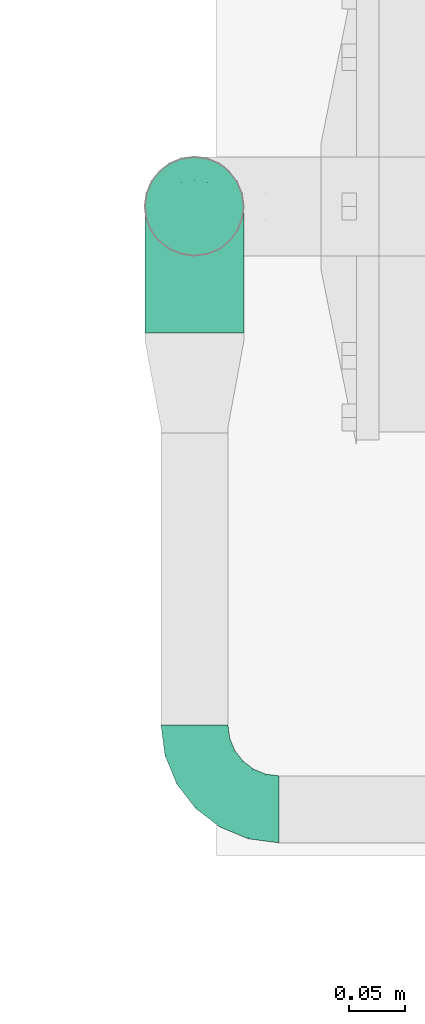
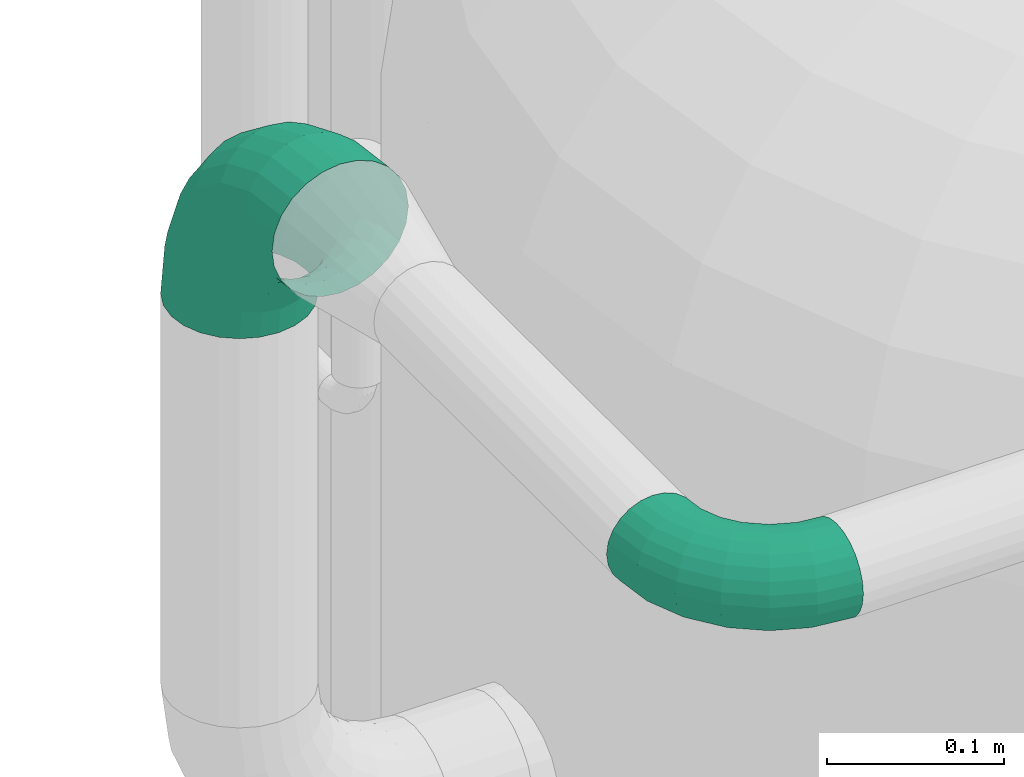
# One storey, part 91 of 374: 2 flow segments.
"""IFC2X3 building model written with IfcOpenShell, lengths in metres."""

from ifc_helpers import new_model, si_unit, direction, origin, place, context, subcontext, project, spatial, open_shell, surface_model, source, transform, mapped, element, save


model = new_model("IFC2X3")

# Units and contexts
model_context = context("Model", 3, precision=1e-05, world=origin(), true_north=direction((-0.4480736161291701, 0.8939966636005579)))
body_context = subcontext(model_context, "Body", "Model", "MODEL_VIEW")
ifc_project = project(units=[si_unit("LENGTHUNIT", "METRE"), si_unit("AREAUNIT", "SQUARE_METRE"), si_unit("VOLUMEUNIT", "CUBIC_METRE"), si_unit("PLANEANGLEUNIT", "RADIAN"), si_unit("THERMODYNAMICTEMPERATUREUNIT", "KELVIN"), si_unit("MASSUNIT", "GRAM", prefix="KILO"), si_unit("TIMEUNIT", "SECOND")], contexts=[model_context])

# Site, building, storey
site_placement = place(None, origin())
site = spatial("IfcSite", under=ifc_project, at=site_placement, Name="Site 1", CompositionType="ELEMENT")
building_placement = place(site_placement, origin())
building = spatial("IfcBuilding", under=site, at=building_placement, Name="Undefined", CompositionType="ELEMENT")
storey_placement = place(building_placement, origin())
storey = spatial("IfcBuildingStorey", under=building, at=storey_placement, Name="Rez de chauss\x8ee", CompositionType="ELEMENT", Elevation=0.0)

# Flow segments
shared_shape_1 = source(origin(), body_context, "Body", "SurfaceModel", [
    surface_model("IfcFaceBasedSurfaceModel", [(0.027710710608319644, 4.4408921e-16, 0.0), (0.02757661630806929, 0.00786958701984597, 7.105427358e-15), (0.00013409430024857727, 0.00786958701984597, 0.0), (0.0, 0.0, 0.0), (-0.02637334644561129, 0.008788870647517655, -0.0070429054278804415), (-0.026766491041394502, 0.0009282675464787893, -0.007111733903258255), (-0.050139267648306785, 0.010564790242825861, -0.02064875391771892), (-0.050764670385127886, 0.0027215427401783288, -0.02085054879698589), (-0.06954406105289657, 0.013076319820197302, -0.03989032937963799), (-0.07035910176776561, 0.00525761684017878, -0.04028016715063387), (-0.0832653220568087, 0.01615230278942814, -0.06345635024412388), (-0.08421445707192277, 0.00836366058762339, -0.06407649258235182), (-0.09036796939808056, 0.019583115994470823, -0.08974083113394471), (-0.0913865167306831, 0.011828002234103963, -0.09061784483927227), (0.027183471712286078, 0.015466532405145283, -0.0020199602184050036), (0.0005272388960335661, 0.015466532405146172, -0.0020199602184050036), (-0.025220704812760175, 0.016359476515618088, -0.008861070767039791), (-0.048305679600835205, 0.018084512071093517, -0.02207708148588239), (-0.06715448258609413, 0.020524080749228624, -0.04076734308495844), (-0.0804825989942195, 0.023511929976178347, -0.06365814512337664), (-0.08738173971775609, 0.026844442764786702, -0.08918951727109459), (0.026558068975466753, 0.022273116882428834, -0.005922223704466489), (0.001152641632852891, 0.02227311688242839, -0.005922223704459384), (-0.02338711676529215, 0.023124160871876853, -0.012442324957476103), (-0.04538886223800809, 0.02476825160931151, -0.02503819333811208), (-0.06335321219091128, 0.027093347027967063, -0.042851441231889), (-0.07605592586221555, 0.029940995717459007, -0.06466812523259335), (-0.08263133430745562, 0.033117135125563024, -0.08900147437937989), (0.025743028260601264, 0.0278254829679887, -0.011440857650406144), (0.0019676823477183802, 0.027825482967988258, -0.011440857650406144), (-0.020997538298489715, 0.028621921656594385, -0.017542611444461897), (-0.04158759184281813, 0.03016052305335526, -0.029330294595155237), (-0.058399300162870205, 0.0323364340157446, -0.04600059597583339), (-0.07028697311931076, 0.03500136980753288, -0.06641746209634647), (-0.07644048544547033, 0.0379737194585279, -0.08918951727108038), (0.02479389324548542, 0.03174524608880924, -0.01819977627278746), (0.0029168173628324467, 0.03174524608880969, -0.01819977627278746), (-0.018214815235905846, 0.0324780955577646, -0.023814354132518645), (-0.03716091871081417, 0.033893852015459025, -0.034660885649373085), (-0.052630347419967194, 0.03589603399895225, -0.05000019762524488), (-0.06356888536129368, 0.03834819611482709, -0.06878694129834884), (-0.06923108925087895, 0.041083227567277, -0.0897408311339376), (0.023775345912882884, 0.03376528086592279, -0.02573837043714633), (0.003935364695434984, 0.03376528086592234, -0.02573837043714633), (-0.01522858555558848, 0.03442989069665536, -0.03083014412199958), (-0.0324105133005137, 0.03571381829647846, -0.040666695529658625), (-0.046439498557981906, 0.0375295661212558, -0.05457767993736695), (-0.05635948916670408, 0.039753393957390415, -0.07161508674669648), (-0.061494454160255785, 0.04223375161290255, -0.09061784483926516), (0.022756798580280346, 0.03374792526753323, -0.033542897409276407), (0.0049539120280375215, 0.033747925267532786, -0.033542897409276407), (-0.01224235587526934, 0.03434429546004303, -0.03811186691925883), (-0.027660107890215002, 0.035496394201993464, -0.04693843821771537), (-0.040248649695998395, 0.0371257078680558, -0.05942109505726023), (-0.04915009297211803, 0.039121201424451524, -0.07470916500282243), (-0.05375781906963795, 0.041346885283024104, -0.09176079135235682), (0.02180766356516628, 0.03169436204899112, -0.04108149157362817), (0.005903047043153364, 0.031694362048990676, -0.04108149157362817), (-0.00945963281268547, 0.03222714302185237, -0.045163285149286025), (-0.02323343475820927, 0.03325639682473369, -0.05304870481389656), (-0.034479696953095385, 0.034711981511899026, -0.06420037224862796), (-0.04243200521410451, 0.036494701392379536, -0.07785831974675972), (-0.04654842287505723, 0.03848306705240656, -0.09309178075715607), (0.020992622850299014, 0.02774453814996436, -0.0478404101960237), (0.006718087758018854, 0.027744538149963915, -0.0478404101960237), (-0.007070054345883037, 0.02822271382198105, -0.05150385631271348), (-0.019432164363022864, 0.0291464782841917, -0.0585810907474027), (-0.029525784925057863, 0.030452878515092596, -0.06858981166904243), (-0.03666305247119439, 0.032052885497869, -0.08084794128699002), (-0.04035757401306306, 0.03383746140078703, -0.09452010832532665), (0.020367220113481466, 0.022167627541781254, -0.05335904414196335), (0.0073434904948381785, 0.022167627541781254, -0.05335904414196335), (-0.00523646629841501, 0.02260390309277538, -0.05670148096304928), (-0.016515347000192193, 0.023446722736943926, -0.06315857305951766), (-0.025724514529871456, 0.02463864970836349, -0.07229028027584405), (-0.03223637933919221, 0.02609845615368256, -0.0834742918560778), (-0.03560716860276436, 0.027726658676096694, -0.09594843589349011), (0.019974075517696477, 0.01534368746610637, -0.05726130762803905), (0.007736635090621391, 0.01534368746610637, -0.05726130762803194), (-0.004083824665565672, 0.01575362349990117, -0.06040194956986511), (-0.014681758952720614, 0.01654555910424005, -0.06646920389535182), (-0.02333493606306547, 0.01766552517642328, -0.07504959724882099), (-0.029453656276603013, 0.01903719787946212, -0.08555839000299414), (-0.032620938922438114, 0.02056709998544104, -0.09727942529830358), (0.019839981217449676, 0.00773775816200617, -0.05928126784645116), (0.007870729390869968, 0.007737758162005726, -0.05928126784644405), (-0.003690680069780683, 0.008138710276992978, -0.062353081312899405), (-0.014056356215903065, 0.008913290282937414, -0.06828736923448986), (-0.022519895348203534, 0.01000871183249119, -0.07667971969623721), (-0.0285045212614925, 0.011350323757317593, -0.08695820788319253), (-0.03160239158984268, 0.012846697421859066, -0.09842237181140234), (0.019974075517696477, -0.0001318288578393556, -0.05928126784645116), (0.007736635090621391, -0.0001318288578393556, -0.05928126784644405), (-0.004083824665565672, 0.0002781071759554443, -0.06242190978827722), (-0.014681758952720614, 0.001070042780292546, -0.06848916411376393), (-0.02333493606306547, 0.0021900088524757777, -0.0770695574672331), (-0.029453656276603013, 0.0035616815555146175, -0.08757835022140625), (-0.032620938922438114, 0.005091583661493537, -0.09929938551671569), (0.020367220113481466, -0.007728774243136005, -0.057261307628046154), (0.0073434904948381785, -0.007728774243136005, -0.057261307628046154), (-0.00523646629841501, -0.00729249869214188, -0.06060374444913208), (-0.016515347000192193, -0.0064496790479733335, -0.06706083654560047), (-0.025724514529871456, -0.005257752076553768, -0.07619254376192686), (-0.03223637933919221, -0.0037979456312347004, -0.0873765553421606), (-0.03560716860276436, -0.0021697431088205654, -0.09985069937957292), (0.020992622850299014, -0.01453535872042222, -0.053359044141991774), (0.006718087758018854, -0.014535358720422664, -0.053359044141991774), (-0.007070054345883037, -0.01405718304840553, -0.05702249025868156), (-0.019432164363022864, -0.013133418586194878, -0.06409972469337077), (-0.029525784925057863, -0.011827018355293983, -0.07410844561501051), (-0.03666305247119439, -0.01022701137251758, -0.0863665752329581), (-0.04035757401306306, -0.008442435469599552, -0.10003874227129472), (0.02180766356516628, -0.020087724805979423, -0.04784041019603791), (0.005903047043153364, -0.020087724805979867, -0.04784041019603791), (-0.00945963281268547, -0.019554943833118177, -0.05192220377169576), (-0.02323343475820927, -0.018525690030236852, -0.0598076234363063), (-0.034479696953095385, -0.017070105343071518, -0.0709592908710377), (-0.04243200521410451, -0.015287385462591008, -0.08461723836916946), (-0.04654842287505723, -0.013299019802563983, -0.09985069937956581), (0.022756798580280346, -0.024007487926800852, -0.0410814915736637), (0.0049539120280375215, -0.024007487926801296, -0.0410814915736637), (-0.01224235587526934, -0.023411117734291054, -0.04565046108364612), (-0.027660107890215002, -0.022259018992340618, -0.054477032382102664), (-0.040248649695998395, -0.02062970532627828, -0.06695968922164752), (-0.04915009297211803, -0.018634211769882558, -0.08224775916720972), (-0.05375781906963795, -0.016408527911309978, -0.09929938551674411), (0.023775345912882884, -0.026027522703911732, -0.033542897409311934), (0.003935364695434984, -0.026027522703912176, -0.033542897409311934), (-0.01522858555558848, -0.025362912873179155, -0.038634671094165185), (-0.0324105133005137, -0.024078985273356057, -0.04847122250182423), (-0.046439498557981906, -0.02226323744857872, -0.062382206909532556), (-0.05635948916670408, -0.020039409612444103, -0.07941961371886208), (-0.061494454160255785, -0.01755905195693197, -0.09842237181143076), (0.02479389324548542, -0.02601016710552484, -0.02573837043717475), (0.0029168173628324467, -0.026010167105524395, -0.02573837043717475), (-0.018214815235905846, -0.025277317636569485, -0.031352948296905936), (-0.03716091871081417, -0.023861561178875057, -0.04219947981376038), (-0.052630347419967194, -0.021859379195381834, -0.05753879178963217), (-0.06356888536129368, -0.01940721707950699, -0.07632553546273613), (-0.06923108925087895, -0.01667218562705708, -0.0972794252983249), (0.025743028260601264, -0.023956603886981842, -0.018199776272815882), (0.0019676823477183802, -0.023956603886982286, -0.018199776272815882), (-0.020997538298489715, -0.02316016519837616, -0.024301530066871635), (-0.04158759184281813, -0.021621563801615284, -0.036089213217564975), (-0.058399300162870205, -0.019445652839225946, -0.05275951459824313), (-0.07028697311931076, -0.016780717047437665, -0.0731763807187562), (-0.07644048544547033, -0.013808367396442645, -0.09594843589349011), (0.026558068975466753, -0.020006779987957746, -0.011440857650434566), (0.001152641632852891, -0.02000677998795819, -0.01144085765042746), (-0.02338711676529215, -0.019155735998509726, -0.01796095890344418), (-0.04538886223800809, -0.01751164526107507, -0.030556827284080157), (-0.06335321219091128, -0.015186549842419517, -0.048370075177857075), (-0.07605592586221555, -0.012338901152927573, -0.07018675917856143), (-0.08263133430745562, -0.009162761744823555, -0.09452010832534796), (0.027183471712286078, -0.014429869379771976, -0.005922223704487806), (0.0005272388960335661, -0.014429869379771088, -0.005922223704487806), (-0.025220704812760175, -0.013536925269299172, -0.012763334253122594), (-0.048305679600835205, -0.011811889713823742, -0.02597934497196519), (-0.06715448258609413, -0.009372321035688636, -0.04466960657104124), (-0.0804825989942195, -0.006384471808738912, -0.06756040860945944), (-0.08738173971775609, -0.003051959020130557, -0.09309178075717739), (0.02757661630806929, -0.007605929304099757, -0.0020199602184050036), (0.00013409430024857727, -0.007605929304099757, -0.002019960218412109), (-0.02637334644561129, -0.006686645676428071, -0.00906286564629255), (-0.050139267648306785, -0.004910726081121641, -0.02266871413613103), (-0.06954406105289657, -0.0023991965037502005, -0.0419102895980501), (-0.0832653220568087, 0.0006767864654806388, -0.06547631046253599), (-0.09036796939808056, 0.004107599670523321, -0.09176079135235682)], [open_shell([[[0, 1, 2, 3]], [[3, 2, 4, 5]], [[5, 4, 6, 7]], [[7, 6, 8, 9]], [[9, 8, 10, 11]], [[11, 10, 12, 13]], [[1, 14, 15, 2]], [[2, 15, 16, 4]], [[4, 16, 17, 6]], [[6, 17, 18, 8]], [[8, 18, 19, 10]], [[10, 19, 20, 12]], [[14, 21, 22, 15]], [[15, 22, 23, 16]], [[16, 23, 24, 17]], [[17, 24, 25, 18]], [[18, 25, 26, 19]], [[19, 26, 27, 20]], [[21, 28, 29, 22]], [[22, 29, 30, 23]], [[23, 30, 31, 24]], [[24, 31, 32, 25]], [[25, 32, 33, 26]], [[26, 33, 34, 27]], [[28, 35, 36, 29]], [[29, 36, 37, 30]], [[30, 37, 38, 31]], [[31, 38, 39, 32]], [[32, 39, 40, 33]], [[33, 40, 41, 34]], [[35, 42, 43, 36]], [[36, 43, 44, 37]], [[37, 44, 45, 38]], [[38, 45, 46, 39]], [[39, 46, 47, 40]], [[40, 47, 48, 41]], [[42, 49, 50, 43]], [[43, 50, 51, 44]], [[44, 51, 52, 45]], [[45, 52, 53, 46]], [[46, 53, 54, 47]], [[47, 54, 55, 48]], [[49, 56, 57, 50]], [[50, 57, 58, 51]], [[51, 58, 59, 52]], [[52, 59, 60, 53]], [[53, 60, 61, 54]], [[54, 61, 62, 55]], [[56, 63, 64, 57]], [[57, 64, 65, 58]], [[58, 65, 66, 59]], [[59, 66, 67, 60]], [[60, 67, 68, 61]], [[61, 68, 69, 62]], [[63, 70, 71, 64]], [[64, 71, 72, 65]], [[65, 72, 73, 66]], [[66, 73, 74, 67]], [[67, 74, 75, 68]], [[68, 75, 76, 69]], [[70, 77, 78, 71]], [[71, 78, 79, 72]], [[72, 79, 80, 73]], [[73, 80, 81, 74]], [[74, 81, 82, 75]], [[75, 82, 83, 76]], [[77, 84, 85, 78]], [[78, 85, 86, 79]], [[79, 86, 87, 80]], [[80, 87, 88, 81]], [[81, 88, 89, 82]], [[82, 89, 90, 83]], [[84, 91, 92, 85]], [[85, 92, 93, 86]], [[86, 93, 94, 87]], [[87, 94, 95, 88]], [[88, 95, 96, 89]], [[89, 96, 97, 90]], [[91, 98, 99, 92]], [[92, 99, 100, 93]], [[93, 100, 101, 94]], [[94, 101, 102, 95]], [[95, 102, 103, 96]], [[96, 103, 104, 97]], [[98, 105, 106, 99]], [[99, 106, 107, 100]], [[100, 107, 108, 101]], [[101, 108, 109, 102]], [[102, 109, 110, 103]], [[103, 110, 111, 104]], [[105, 112, 113, 106]], [[106, 113, 114, 107]], [[107, 114, 115, 108]], [[108, 115, 116, 109]], [[109, 116, 117, 110]], [[110, 117, 118, 111]], [[112, 119, 120, 113]], [[113, 120, 121, 114]], [[114, 121, 122, 115]], [[115, 122, 123, 116]], [[116, 123, 124, 117]], [[117, 124, 125, 118]], [[119, 126, 127, 120]], [[120, 127, 128, 121]], [[121, 128, 129, 122]], [[122, 129, 130, 123]], [[123, 130, 131, 124]], [[124, 131, 132, 125]], [[126, 133, 134, 127]], [[127, 134, 135, 128]], [[128, 135, 136, 129]], [[129, 136, 137, 130]], [[130, 137, 138, 131]], [[131, 138, 139, 132]], [[133, 140, 141, 134]], [[134, 141, 142, 135]], [[135, 142, 143, 136]], [[136, 143, 144, 137]], [[137, 144, 145, 138]], [[138, 145, 146, 139]], [[140, 147, 148, 141]], [[141, 148, 149, 142]], [[142, 149, 150, 143]], [[143, 150, 151, 144]], [[144, 151, 152, 145]], [[145, 152, 153, 146]], [[147, 154, 155, 148]], [[148, 155, 156, 149]], [[149, 156, 157, 150]], [[150, 157, 158, 151]], [[151, 158, 159, 152]], [[152, 159, 160, 153]], [[154, 161, 162, 155]], [[155, 162, 163, 156]], [[156, 163, 164, 157]], [[157, 164, 165, 158]], [[158, 165, 166, 159]], [[159, 166, 167, 160]], [[161, 0, 3, 162]], [[162, 3, 5, 163]], [[163, 5, 7, 164]], [[164, 7, 9, 165]], [[165, 9, 11, 166]], [[166, 11, 13, 167]]])]),
])
flow_segment_1_placement = place(storey_placement, origin())
element("IfcFlowSegment", 1, at=flow_segment_1_placement, inside=storey, Name="Tube coudé", ObjectType="Tube coudé", context=body_context, shape_type="MappedRepresentation", body=[
    mapped(shared_shape_1, transform((53.59629753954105, 9.488083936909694, 2.1879999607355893), x_axis=(-0.13052619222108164, 0.9914448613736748, 0.0), y_axis=(0.12832103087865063, 0.01689378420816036, -0.9915887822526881), z_axis=(-0.9831056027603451, -0.1294283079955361, -0.12942830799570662))),
])
shared_shape_2 = source(origin(), body_context, "Body", "SurfaceModel", [
    surface_model("IfcFaceBasedSurfaceModel", [(0.041363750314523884, -1.776356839e-15, 0.0), (0.04116605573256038, 0.011602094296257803, 0.0), (0.000197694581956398, 0.011602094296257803, 8.8817842e-16), (0.0, 0.0, 0.0), (-0.03937470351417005, 0.01297447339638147, -0.010514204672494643), (-0.039954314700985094, 0.0013856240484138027, -0.010615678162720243), (-0.07485434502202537, 0.015625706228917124, -0.03082608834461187), (-0.07577637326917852, 0.004062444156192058, -0.03112359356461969), (-0.10382335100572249, 0.01937511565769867, -0.059551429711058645), (-0.1050249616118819, 0.007848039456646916, -0.06012616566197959), (-0.12430753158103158, 0.023967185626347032, -0.09473264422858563), (-0.1257068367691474, 0.012484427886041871, -0.09564691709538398), (-0.1349109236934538, 0.029088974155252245, -0.13397219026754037), (-0.136412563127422, 0.017655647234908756, -0.13526516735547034), (0.04058644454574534, 0.02280223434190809, -0.0029780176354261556), (0.0007773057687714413, 0.022802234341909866, -0.002978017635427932), (-0.037675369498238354, 0.024135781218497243, -0.013194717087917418), (-0.07215109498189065, 0.026711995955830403, -0.032931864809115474), (-0.10030040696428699, 0.030355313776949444, -0.06084440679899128), (-0.12020497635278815, 0.03481744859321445, -0.09503014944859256), (-0.1305083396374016, 0.039794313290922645, -0.13315939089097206), (0.03966441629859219, 0.03283714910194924, -0.00873110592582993), (0.0016993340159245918, 0.03283714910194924, -0.00873110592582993), (-0.034972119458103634, 0.034108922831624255, -0.018474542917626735), (-0.06785084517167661, 0.03656580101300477, -0.03729741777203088), (-0.09469621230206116, 0.04004035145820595, -0.06391698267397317), (-0.11367875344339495, 0.044295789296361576, -0.09651915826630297), (-0.12350483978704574, 0.04904211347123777, -0.13288216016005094), (0.03846280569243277, 0.041022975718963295, -0.016867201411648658), (0.0029009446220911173, 0.04102297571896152, -0.016867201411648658), (-0.031449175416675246, 0.04221424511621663, -0.025993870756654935), (-0.06224665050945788, 0.044515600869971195, -0.04362524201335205), (-0.08739268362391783, 0.047770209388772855, -0.06855976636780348), (-0.10517361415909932, 0.051756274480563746, -0.09909819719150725), (-0.11437770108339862, 0.056202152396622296, -0.13315939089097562), (0.03706350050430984, 0.04680186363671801, -0.026831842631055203), (0.004300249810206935, 0.046801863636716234, -0.02683184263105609), (-0.027346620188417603, 0.047899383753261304, -0.03524027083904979), (-0.055720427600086, 0.050019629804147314, -0.051484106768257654), (-0.07888754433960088, 0.053018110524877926, -0.07445635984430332), (-0.09526916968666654, 0.056690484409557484, -0.10259150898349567), (-0.1037489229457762, 0.06078648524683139, -0.13397219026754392), (0.03556186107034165, 0.04977999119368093, -0.0379459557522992), (0.005801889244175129, 0.04977999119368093, -0.03794595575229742), (-0.022944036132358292, 0.05077690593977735, -0.045583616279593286), (-0.04871692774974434, 0.052702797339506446, -0.06033844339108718), (-0.06976040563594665, 0.05542641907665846, -0.08120492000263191), (-0.08464039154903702, 0.05876216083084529, -0.10676103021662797), (-0.09234283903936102, 0.06248269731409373, -0.13526516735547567), (0.03406022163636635, 0.04975440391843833, -0.049452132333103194), (0.007303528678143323, 0.04975440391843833, -0.04945213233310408), (-0.018541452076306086, 0.0506507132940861, -0.05631902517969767), (-0.04171342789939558, 0.05238225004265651, -0.06958484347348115), (-0.060633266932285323, 0.05483101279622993, -0.0883455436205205), (-0.0740116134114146, 0.057830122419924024, -0.11132261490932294), (-0.08093675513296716, 0.06117519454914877, -0.13695020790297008), (0.03266091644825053, 0.04672684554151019, -0.06056624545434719), (0.008702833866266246, 0.04672684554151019, -0.0605662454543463), (-0.014438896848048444, 0.04752940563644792, -0.06671489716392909), (-0.0351872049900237, 0.04907983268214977, -0.07859318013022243), (-0.05212812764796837, 0.051272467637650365, -0.09539160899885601), (-0.06410716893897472, 0.053957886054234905, -0.1159653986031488), (-0.07030797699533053, 0.05695308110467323, -0.13891247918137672), (0.03145930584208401, 0.04090363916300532, -0.07053088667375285), (0.009904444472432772, 0.0409036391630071, -0.07053088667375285), (-0.010915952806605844, 0.041625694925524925, -0.07606277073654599), (-0.02958301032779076, 0.0430205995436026, -0.08674955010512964), (-0.04482459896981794, 0.044993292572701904, -0.10186293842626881), (-0.055602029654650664, 0.04740933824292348, -0.12037298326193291), (-0.0611808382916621, 0.05010408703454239, -0.14101825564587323), (0.030537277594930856, 0.032681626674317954, -0.0786669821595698), (0.010826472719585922, 0.03268162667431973, -0.07866698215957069), (-0.00821270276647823, 0.033341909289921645, -0.08372560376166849), (-0.02528276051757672, 0.03461747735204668, -0.09349811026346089), (-0.039220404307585, 0.03642140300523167, -0.10731852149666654), (-0.04907580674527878, 0.03863075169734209, -0.12424499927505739), (-0.054177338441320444, 0.041094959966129, -0.14312403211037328), (0.029957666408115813, 0.022621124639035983, -0.0844200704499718), (0.011406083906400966, 0.022621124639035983, -0.08442007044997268), (-0.006513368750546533, 0.023242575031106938, -0.08918118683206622), (-0.022579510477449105, 0.024443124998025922, -0.09837895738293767), (-0.03569746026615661, 0.026140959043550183, -0.11138656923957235), (-0.044973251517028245, 0.028220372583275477, -0.12731757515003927), (-0.049774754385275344, 0.030539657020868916, -0.14508630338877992), (0.029759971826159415, 0.011407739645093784, -0.08739808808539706), (0.011603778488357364, 0.011407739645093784, -0.08739808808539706), (-0.0059337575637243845, 0.012015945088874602, -0.09205773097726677), (-0.021657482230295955, 0.013190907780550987, -0.1010594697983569), (-0.03449584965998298, 0.01485255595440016, -0.11378985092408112), (-0.043573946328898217, 0.016887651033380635, -0.12938131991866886), (-0.048273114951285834, 0.019157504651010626, -0.14677134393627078), (0.029957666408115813, -0.00019435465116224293, -0.08739808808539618), (0.011406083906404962, -0.000194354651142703, -0.08739808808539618), (-0.006513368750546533, 0.00042709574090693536, -0.09215920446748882), (-0.022579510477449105, 0.0016276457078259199, -0.10135697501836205), (-0.03569746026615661, 0.00332547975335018, -0.11436458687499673), (-0.044973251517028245, 0.0054048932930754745, -0.13029559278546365), (-0.049774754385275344, 0.007724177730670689, -0.1480643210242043), (0.030537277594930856, -0.011394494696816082, -0.08442007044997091), (0.010826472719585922, -0.011394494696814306, -0.08442007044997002), (-0.00821270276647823, -0.010734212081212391, -0.0894786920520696), (-0.02528276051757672, -0.009458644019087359, -0.09925119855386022), (-0.039220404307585, -0.007654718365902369, -0.11307160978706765), (-0.04907580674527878, -0.005445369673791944, -0.12999808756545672), (-0.054177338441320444, -0.0029811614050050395, -0.1488771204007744), (0.03145930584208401, -0.021429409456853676, -0.07866698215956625), (0.009904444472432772, -0.021429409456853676, -0.07866698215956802), (-0.010915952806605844, -0.02070735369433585, -0.08419886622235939), (-0.02958301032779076, -0.019312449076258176, -0.09488564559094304), (-0.04482459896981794, -0.017339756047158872, -0.10999903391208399), (-0.055602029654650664, -0.014923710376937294, -0.1285090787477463), (-0.0611808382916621, -0.012228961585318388, -0.1491543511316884), (0.03266091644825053, -0.029615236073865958, -0.0705308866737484), (0.008702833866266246, -0.029615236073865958, -0.07053088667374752), (-0.014438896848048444, -0.02881267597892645, -0.0766795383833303), (-0.0351872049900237, -0.027262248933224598, -0.08855782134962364), (-0.05212812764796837, -0.025069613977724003, -0.105356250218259), (-0.06410716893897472, -0.022384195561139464, -0.1259300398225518), (-0.07030797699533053, -0.019389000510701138, -0.14887712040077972), (0.03406022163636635, -0.03539412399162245, -0.06056624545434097), (0.007303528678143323, -0.03539412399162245, -0.06056624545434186), (-0.018541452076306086, -0.034497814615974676, -0.06743313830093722), (-0.04171342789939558, -0.03276627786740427, -0.08069895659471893), (-0.060633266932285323, -0.03031751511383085, -0.09945965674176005), (-0.0740116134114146, -0.027318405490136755, -0.12243672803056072), (-0.08093675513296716, -0.023973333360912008, -0.14806432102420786), (0.03556186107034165, -0.038372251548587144, -0.04945213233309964), (0.005801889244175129, -0.038372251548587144, -0.049452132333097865), (-0.022944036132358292, -0.03737533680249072, -0.05708979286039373), (-0.04871692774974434, -0.035449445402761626, -0.0718446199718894), (-0.06976040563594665, -0.03272582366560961, -0.09271109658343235), (-0.08464039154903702, -0.029390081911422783, -0.11826720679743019), (-0.09234283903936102, -0.025669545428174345, -0.1467713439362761), (0.03706350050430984, -0.03834666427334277, -0.03794595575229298), (0.004300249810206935, -0.038346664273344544, -0.03794595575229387), (-0.027346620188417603, -0.037249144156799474, -0.04635438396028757), (-0.055720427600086, -0.035128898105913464, -0.06259821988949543), (-0.07888754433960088, -0.03213041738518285, -0.0855704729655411), (-0.09526916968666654, -0.028458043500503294, -0.11370562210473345), (-0.1037489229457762, -0.02436204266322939, -0.1450863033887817), (0.03846280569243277, -0.03531910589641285, -0.026831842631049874), (0.0029009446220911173, -0.03531910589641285, -0.02683184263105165), (-0.031449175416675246, -0.03412783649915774, -0.03595851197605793), (-0.06224665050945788, -0.031826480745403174, -0.05358988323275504), (-0.08739268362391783, -0.028571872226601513, -0.07852440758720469), (-0.10517361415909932, -0.024585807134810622, -0.10906283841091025), (-0.11437770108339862, -0.020139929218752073, -0.1431240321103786), (0.03966441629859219, -0.029495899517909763, -0.01686720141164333), (0.0016993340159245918, -0.02949589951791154, -0.016867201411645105), (-0.034972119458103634, -0.02822412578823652, -0.02661063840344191), (-0.06785084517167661, -0.025767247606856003, -0.04543351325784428), (-0.09469621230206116, -0.02229269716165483, -0.07205307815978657), (-0.11367875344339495, -0.0180372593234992, -0.10465525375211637), (-0.12350483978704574, -0.013290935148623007, -0.14101825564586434), (0.04058644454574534, -0.021273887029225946, -0.008731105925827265), (0.0007773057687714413, -0.02127388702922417, -0.008731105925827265), (-0.037675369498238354, -0.019940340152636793, -0.018947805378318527), (-0.07215109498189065, -0.017364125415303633, -0.038684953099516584), (-0.10030040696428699, -0.013720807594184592, -0.06659749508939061), (-0.12020497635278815, -0.009258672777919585, -0.1007832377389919), (-0.1305083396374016, -0.004281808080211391, -0.1389124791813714), (0.04116605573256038, -0.011213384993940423, -0.0029780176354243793), (0.000197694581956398, -0.0112133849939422, -0.002978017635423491), (-0.03937470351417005, -0.009841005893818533, -0.013492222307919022), (-0.07485434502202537, -0.007189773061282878, -0.03380410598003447), (-0.10382335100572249, -0.003440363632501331, -0.06252944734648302), (-0.12430753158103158, 0.0011517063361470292, -0.09771066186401), (-0.1349109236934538, 0.006273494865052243, -0.13695020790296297)], [open_shell([[[0, 1, 2, 3]], [[3, 2, 4, 5]], [[5, 4, 6, 7]], [[7, 6, 8, 9]], [[9, 8, 10, 11]], [[11, 10, 12, 13]], [[1, 14, 15, 2]], [[2, 15, 16, 4]], [[4, 16, 17, 6]], [[6, 17, 18, 8]], [[8, 18, 19, 10]], [[10, 19, 20, 12]], [[14, 21, 22, 15]], [[15, 22, 23, 16]], [[16, 23, 24, 17]], [[17, 24, 25, 18]], [[18, 25, 26, 19]], [[19, 26, 27, 20]], [[21, 28, 29, 22]], [[22, 29, 30, 23]], [[23, 30, 31, 24]], [[24, 31, 32, 25]], [[25, 32, 33, 26]], [[26, 33, 34, 27]], [[28, 35, 36, 29]], [[29, 36, 37, 30]], [[30, 37, 38, 31]], [[31, 38, 39, 32]], [[32, 39, 40, 33]], [[33, 40, 41, 34]], [[35, 42, 43, 36]], [[36, 43, 44, 37]], [[37, 44, 45, 38]], [[38, 45, 46, 39]], [[39, 46, 47, 40]], [[40, 47, 48, 41]], [[42, 49, 50, 43]], [[43, 50, 51, 44]], [[44, 51, 52, 45]], [[45, 52, 53, 46]], [[46, 53, 54, 47]], [[47, 54, 55, 48]], [[49, 56, 57, 50]], [[50, 57, 58, 51]], [[51, 58, 59, 52]], [[52, 59, 60, 53]], [[53, 60, 61, 54]], [[54, 61, 62, 55]], [[56, 63, 64, 57]], [[57, 64, 65, 58]], [[58, 65, 66, 59]], [[59, 66, 67, 60]], [[60, 67, 68, 61]], [[61, 68, 69, 62]], [[63, 70, 71, 64]], [[64, 71, 72, 65]], [[65, 72, 73, 66]], [[66, 73, 74, 67]], [[67, 74, 75, 68]], [[68, 75, 76, 69]], [[70, 77, 78, 71]], [[71, 78, 79, 72]], [[72, 79, 80, 73]], [[73, 80, 81, 74]], [[74, 81, 82, 75]], [[75, 82, 83, 76]], [[77, 84, 85, 78]], [[78, 85, 86, 79]], [[79, 86, 87, 80]], [[80, 87, 88, 81]], [[81, 88, 89, 82]], [[82, 89, 90, 83]], [[84, 91, 92, 85]], [[85, 92, 93, 86]], [[86, 93, 94, 87]], [[87, 94, 95, 88]], [[88, 95, 96, 89]], [[89, 96, 97, 90]], [[91, 98, 99, 92]], [[92, 99, 100, 93]], [[93, 100, 101, 94]], [[94, 101, 102, 95]], [[95, 102, 103, 96]], [[96, 103, 104, 97]], [[98, 105, 106, 99]], [[99, 106, 107, 100]], [[100, 107, 108, 101]], [[101, 108, 109, 102]], [[102, 109, 110, 103]], [[103, 110, 111, 104]], [[105, 112, 113, 106]], [[106, 113, 114, 107]], [[107, 114, 115, 108]], [[108, 115, 116, 109]], [[109, 116, 117, 110]], [[110, 117, 118, 111]], [[112, 119, 120, 113]], [[113, 120, 121, 114]], [[114, 121, 122, 115]], [[115, 122, 123, 116]], [[116, 123, 124, 117]], [[117, 124, 125, 118]], [[119, 126, 127, 120]], [[120, 127, 128, 121]], [[121, 128, 129, 122]], [[122, 129, 130, 123]], [[123, 130, 131, 124]], [[124, 131, 132, 125]], [[126, 133, 134, 127]], [[127, 134, 135, 128]], [[128, 135, 136, 129]], [[129, 136, 137, 130]], [[130, 137, 138, 131]], [[131, 138, 139, 132]], [[133, 140, 141, 134]], [[134, 141, 142, 135]], [[135, 142, 143, 136]], [[136, 143, 144, 137]], [[137, 144, 145, 138]], [[138, 145, 146, 139]], [[140, 147, 148, 141]], [[141, 148, 149, 142]], [[142, 149, 150, 143]], [[143, 150, 151, 144]], [[144, 151, 152, 145]], [[145, 152, 153, 146]], [[147, 154, 155, 148]], [[148, 155, 156, 149]], [[149, 156, 157, 150]], [[150, 157, 158, 151]], [[151, 158, 159, 152]], [[152, 159, 160, 153]], [[154, 161, 162, 155]], [[155, 162, 163, 156]], [[156, 163, 164, 157]], [[157, 164, 165, 158]], [[158, 165, 166, 159]], [[159, 166, 167, 160]], [[161, 0, 3, 162]], [[162, 3, 5, 163]], [[163, 5, 7, 164]], [[164, 7, 9, 165]], [[165, 9, 11, 166]], [[166, 11, 13, 167]]])]),
])
flow_segment_2_placement = place(storey_placement, origin())
element("IfcFlowSegment", 2, at=flow_segment_2_placement, inside=storey, Name="Tube coudé", ObjectType="Tube coudé", context=body_context, shape_type="MappedRepresentation", body=[
    mapped(shared_shape_2, transform((53.62283056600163, 10.021366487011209, 2.115009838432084), x_axis=(0.0, 0.13052619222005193, -0.9914448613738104), y_axis=(-0.9915887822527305, -0.12832103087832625, -0.016893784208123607), z_axis=(-0.12942830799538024, 0.9831056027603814, 0.12942830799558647))),
])

save(model, "model.ifc")
